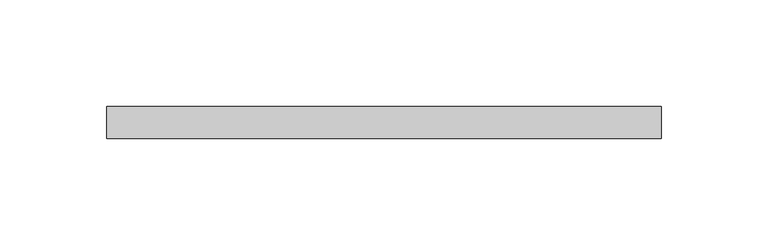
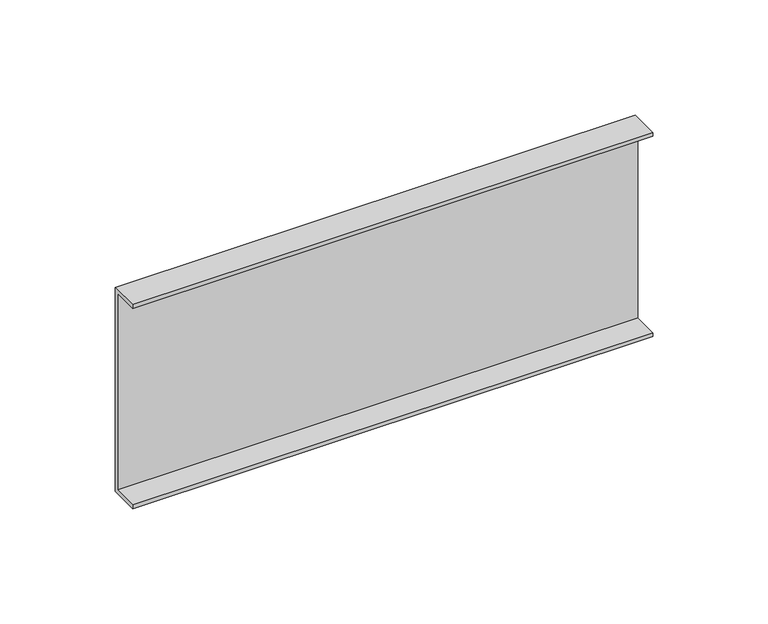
"""IFC4 building model written with IfcOpenShell, lengths in millimetres: cable carrier fitting geometry, BAKS_LDLS_CONN_Straight connector_LSSU : LSSUC_H100."""

from ifc_helpers import new_model, si_unit, frame, origin, place, context, project, spatial, polyline, outline, extrude, source, transform, mapped, element, save


def cable_carrier_fitting_2a48b0f8(model_context):
    return source(origin(), model_context, "Body", "SweptSolid", [
        extrude(outline(polyline([(2.0, 54.0), (2.0, -54.0), (-13.0, -54.0), (-13.0, -52.0), (0.0, -52.0), (0.0, 52.0), (-13.0, 52.0), (-13.0, 54.0), (2.0, 54.0)])), frame((-130.0, 0.0, 0.0), z_axis=(1.0, 0.0, 0.0), x_axis=(0.0, 1.0, 0.0)), (0.0, 0.0, 1.0), 260.0),
    ])


if __name__ == "__main__":
    model = new_model("IFC4")
    model_context = context("Model", 3, world=origin())
    ifc_project = project(units=[si_unit("LENGTHUNIT", "METRE", prefix="MILLI")], contexts=[model_context])
    site = spatial("IfcSite", under=ifc_project)
    building = spatial("IfcBuilding", under=site)
    placement = place(None, origin())
    cable_carrier_fitting_shape = cable_carrier_fitting_2a48b0f8(model_context)
    element("IfcCableCarrierFitting", 1, ObjectType="BAKS_LDLS_CONN_Straight connector_LSSU : LSSUC_H100", at=placement, inside=building, context=model_context, shape_type="MappedRepresentation", body=[
        mapped(cable_carrier_fitting_shape, transform((0.0, 0.0, 0.0), x_axis=(1.0, 0.0, 0.0), y_axis=(0.0, 1.0, 0.0), z_axis=(0.0, 0.0, 1.0))),
    ])
    save(model, "model.ifc")
